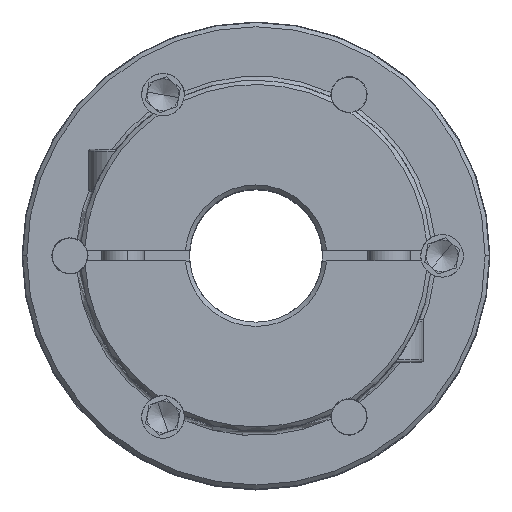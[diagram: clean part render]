
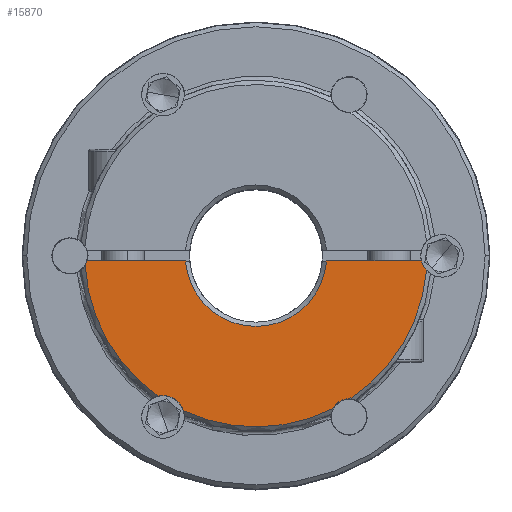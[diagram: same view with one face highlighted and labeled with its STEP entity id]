
A CAD part, top view. The second image highlights one B-rep face of the part: STEP entity #15870.
In plain terms, the highlighted planar face has unit normal (0, 0, 1).
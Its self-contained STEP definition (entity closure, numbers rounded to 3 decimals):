
#46 = ORIENTED_EDGE ( 'NONE', *, *, #9977, .T. ) ;
#91 = DIRECTION ( 'NONE',  ( 1., 0., 0. ) ) ;
#271 = CARTESIAN_POINT ( 'NONE',  ( -31.75, -1., 34.15 ) ) ;
#733 = AXIS2_PLACEMENT_3D ( 'NONE', #18444, #22021, #3134 ) ;
#825 = VERTEX_POINT ( 'NONE', #8934 ) ;
#1132 = CARTESIAN_POINT ( 'NONE',  ( -32.147, -1.849, 34.15 ) ) ;
#1310 = CIRCLE ( 'NONE', #5944, 4. ) ;
#1319 = CIRCLE ( 'NONE', #4562, 3.4 ) ;
#1332 = DIRECTION ( 'NONE',  ( 0., 0., 1. ) ) ;
#1537 = CIRCLE ( 'NONE', #16140, 13.3 ) ;
#1634 = DIRECTION ( 'NONE',  ( 0., 0., -1. ) ) ;
#1741 = CARTESIAN_POINT ( 'NONE',  ( 0., 0., 34.15 ) ) ;
#1841 = CARTESIAN_POINT ( 'NONE',  ( 0., 0., 34.15 ) ) ;
#2273 = ORIENTED_EDGE ( 'NONE', *, *, #21867, .F. ) ;
#2383 = ORIENTED_EDGE ( 'NONE', *, *, #20735, .T. ) ;
#2555 = VERTEX_POINT ( 'NONE', #271 ) ;
#3030 = DIRECTION ( 'NONE',  ( 1., 0., 0. ) ) ;
#3134 = DIRECTION ( 'NONE',  ( 1., 0., 0. ) ) ;
#3448 = DIRECTION ( 'NONE',  ( 1., 0., 0. ) ) ;
#4260 = ORIENTED_EDGE ( 'NONE', *, *, #7023, .T. ) ;
#4462 = AXIS2_PLACEMENT_3D ( 'NONE', #10938, #19894, #4591 ) ;
#4562 = AXIS2_PLACEMENT_3D ( 'NONE', #15833, #17320, #8911 ) ;
#4591 = DIRECTION ( 'NONE',  ( 1., 0., 0. ) ) ;
#4650 = ORIENTED_EDGE ( 'NONE', *, *, #9390, .T. ) ;
#4941 = EDGE_CURVE ( 'NONE', #825, #12693, #11604, .T. ) ;
#5944 = AXIS2_PLACEMENT_3D ( 'NONE', #21297, #12757, #17918 ) ;
#5977 = VERTEX_POINT ( 'NONE', #17953 ) ;
#6247 = ORIENTED_EDGE ( 'NONE', *, *, #17890, .T. ) ;
#6598 = DIRECTION ( 'NONE',  ( 0., 0., -1. ) ) ;
#7023 = EDGE_CURVE ( 'NONE', #8190, #825, #1310, .T. ) ;
#7050 = LINE ( 'NONE', #10284, #11668 ) ;
#7405 = EDGE_CURVE ( 'NONE', #17976, #11250, #9659, .T. ) ;
#7672 = CARTESIAN_POINT ( 'NONE',  ( 31.127, -1., 34.15 ) ) ;
#8190 = VERTEX_POINT ( 'NONE', #9147 ) ;
#8370 = ORIENTED_EDGE ( 'NONE', *, *, #7405, .F. ) ;
#8573 = EDGE_LOOP ( 'NONE', ( #2273, #9962, #6247, #4260, #17365, #2383, #46, #4650, #8370, #18731 ) ) ;
#8777 = DIRECTION ( 'NONE',  ( 1., 0., 0. ) ) ;
#8911 = DIRECTION ( 'NONE',  ( -1., 0., 0. ) ) ;
#8934 = CARTESIAN_POINT ( 'NONE',  ( -13.671, -29.154, 34.15 ) ) ;
#9147 = CARTESIAN_POINT ( 'NONE',  ( -18.412, -26.416, 34.15 ) ) ;
#9390 = EDGE_CURVE ( 'NONE', #17821, #11250, #20797, .T. ) ;
#9659 = LINE ( 'NONE', #21523, #12378 ) ;
#9733 = AXIS2_PLACEMENT_3D ( 'NONE', #10209, #20617, #18827 ) ;
#9962 = ORIENTED_EDGE ( 'NONE', *, *, #11026, .T. ) ;
#9977 = EDGE_CURVE ( 'NONE', #17561, #17821, #11445, .T. ) ;
#10023 = AXIS2_PLACEMENT_3D ( 'NONE', #11606, #6598, #16858 ) ;
#10209 = CARTESIAN_POINT ( 'NONE',  ( 35., 0., 34.15 ) ) ;
#10284 = CARTESIAN_POINT ( 'NONE',  ( -44., -1., 34.15 ) ) ;
#10406 = AXIS2_PLACEMENT_3D ( 'NONE', #1841, #18627, #3448 ) ;
#10938 = CARTESIAN_POINT ( 'NONE',  ( 0., 0., 34.15 ) ) ;
#11026 = EDGE_CURVE ( 'NONE', #2555, #21264, #11063, .T. ) ;
#11063 = CIRCLE ( 'NONE', #10023, 3.4 ) ;
#11250 = VERTEX_POINT ( 'NONE', #7672 ) ;
#11445 = CIRCLE ( 'NONE', #733, 32.2 ) ;
#11493 = CARTESIAN_POINT ( 'NONE',  ( 0., 0., 34.15 ) ) ;
#11604 = CIRCLE ( 'NONE', #4462, 32.2 ) ;
#11606 = CARTESIAN_POINT ( 'NONE',  ( -35., 0., 34.15 ) ) ;
#11668 = VECTOR ( 'NONE', #91, 1000. ) ;
#11899 = FACE_OUTER_BOUND ( 'NONE', #8573, .T. ) ;
#12378 = VECTOR ( 'NONE', #14660, 1000. ) ;
#12693 = VERTEX_POINT ( 'NONE', #14442 ) ;
#12757 = DIRECTION ( 'NONE',  ( 0., 0., -1. ) ) ;
#13238 = EDGE_CURVE ( 'NONE', #17976, #5977, #1537, .T. ) ;
#13732 = CARTESIAN_POINT ( 'NONE',  ( 17.675, -26.915, 34.15 ) ) ;
#13816 = CARTESIAN_POINT ( 'NONE',  ( 13.262, -1., 34.15 ) ) ;
#14442 = CARTESIAN_POINT ( 'NONE',  ( 14.472, -28.765, 34.15 ) ) ;
#14660 = DIRECTION ( 'NONE',  ( 1., 0., 0. ) ) ;
#14707 = CIRCLE ( 'NONE', #16121, 32.2 ) ;
#15833 = CARTESIAN_POINT ( 'NONE',  ( 17.5, -30.311, 34.15 ) ) ;
#15870 = ADVANCED_FACE ( 'NONE', ( #11899 ), #22107, .T. ) ;
#16121 = AXIS2_PLACEMENT_3D ( 'NONE', #11493, #1332, #3030 ) ;
#16140 = AXIS2_PLACEMENT_3D ( 'NONE', #1741, #1634, #8777 ) ;
#16858 = DIRECTION ( 'NONE',  ( -1., 0., 0. ) ) ;
#17320 = DIRECTION ( 'NONE',  ( 0., 0., -1. ) ) ;
#17365 = ORIENTED_EDGE ( 'NONE', *, *, #4941, .T. ) ;
#17561 = VERTEX_POINT ( 'NONE', #13732 ) ;
#17821 = VERTEX_POINT ( 'NONE', #19892 ) ;
#17890 = EDGE_CURVE ( 'NONE', #21264, #8190, #14707, .T. ) ;
#17918 = DIRECTION ( 'NONE',  ( 0.5, 0.866, 0. ) ) ;
#17953 = CARTESIAN_POINT ( 'NONE',  ( -13.262, -1., 34.15 ) ) ;
#17976 = VERTEX_POINT ( 'NONE', #13816 ) ;
#18444 = CARTESIAN_POINT ( 'NONE',  ( 0., 0., 34.15 ) ) ;
#18627 = DIRECTION ( 'NONE',  ( 0., 0., 1. ) ) ;
#18731 = ORIENTED_EDGE ( 'NONE', *, *, #13238, .T. ) ;
#18827 = DIRECTION ( 'NONE',  ( -1., 0., 0. ) ) ;
#19892 = CARTESIAN_POINT ( 'NONE',  ( 32.083, -2.737, 34.15 ) ) ;
#19894 = DIRECTION ( 'NONE',  ( 0., 0., 1. ) ) ;
#20617 = DIRECTION ( 'NONE',  ( 0., 0., -1. ) ) ;
#20735 = EDGE_CURVE ( 'NONE', #12693, #17561, #1319, .T. ) ;
#20797 = CIRCLE ( 'NONE', #9733, 4. ) ;
#21264 = VERTEX_POINT ( 'NONE', #1132 ) ;
#21297 = CARTESIAN_POINT ( 'NONE',  ( -17.5, -30.311, 34.15 ) ) ;
#21523 = CARTESIAN_POINT ( 'NONE',  ( -44., -1., 34.15 ) ) ;
#21867 = EDGE_CURVE ( 'NONE', #2555, #5977, #7050, .T. ) ;
#22021 = DIRECTION ( 'NONE',  ( 0., 0., 1. ) ) ;
#22107 = PLANE ( 'NONE',  #10406 ) ;
